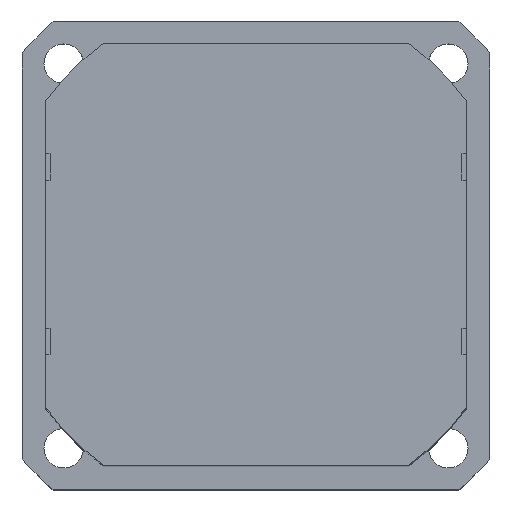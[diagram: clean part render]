
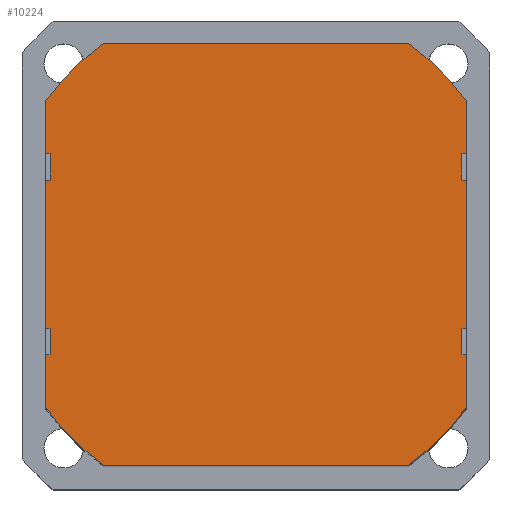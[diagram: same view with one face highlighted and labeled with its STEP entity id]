
A CAD part, top view. The second image highlights one B-rep face of the part: STEP entity #10224.
In plain terms, the highlighted planar face has unit normal (0, 0, 1).
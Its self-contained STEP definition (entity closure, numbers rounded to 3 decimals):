
#2602=CIRCLE('',#11012,79.);
#2603=CIRCLE('',#11013,79.);
#2604=CIRCLE('',#11014,79.);
#2605=CIRCLE('',#11015,79.);
#3288=VERTEX_POINT('',#14359);
#3289=VERTEX_POINT('',#14360);
#3290=VERTEX_POINT('',#14362);
#3291=VERTEX_POINT('',#14364);
#3292=VERTEX_POINT('',#14366);
#3293=VERTEX_POINT('',#14368);
#3294=VERTEX_POINT('',#14370);
#3295=VERTEX_POINT('',#14372);
#3296=VERTEX_POINT('',#14374);
#3297=VERTEX_POINT('',#14376);
#3298=VERTEX_POINT('',#14378);
#3299=VERTEX_POINT('',#14380);
#3300=VERTEX_POINT('',#14382);
#3301=VERTEX_POINT('',#14384);
#3302=VERTEX_POINT('',#14386);
#3303=VERTEX_POINT('',#14388);
#3304=VERTEX_POINT('',#14390);
#3305=VERTEX_POINT('',#14392);
#3306=VERTEX_POINT('',#14394);
#3307=VERTEX_POINT('',#14396);
#3308=VERTEX_POINT('',#14398);
#3309=VERTEX_POINT('',#14400);
#3310=VERTEX_POINT('',#14402);
#3311=VERTEX_POINT('',#14404);
#4258=LINE('',#14358,#12078);
#4259=LINE('',#14363,#12079);
#4260=LINE('',#14365,#12080);
#4261=LINE('',#14367,#12081);
#4262=LINE('',#14369,#12082);
#4263=LINE('',#14371,#12083);
#4264=LINE('',#14373,#12084);
#4265=LINE('',#14375,#12085);
#4266=LINE('',#14377,#12086);
#4267=LINE('',#14379,#12087);
#4268=LINE('',#14383,#12088);
#4269=LINE('',#14387,#12089);
#4270=LINE('',#14389,#12090);
#4271=LINE('',#14391,#12091);
#4272=LINE('',#14393,#12092);
#4273=LINE('',#14395,#12093);
#4274=LINE('',#14397,#12094);
#4275=LINE('',#14399,#12095);
#4276=LINE('',#14401,#12096);
#4277=LINE('',#14403,#12097);
#5134=EDGE_CURVE('',#3288,#3289,#4258,.T.);
#5135=EDGE_CURVE('',#3290,#3288,#2602,.T.);
#5136=EDGE_CURVE('',#3291,#3290,#4259,.T.);
#5137=EDGE_CURVE('',#3292,#3291,#4260,.T.);
#5138=EDGE_CURVE('',#3293,#3292,#4261,.T.);
#5139=EDGE_CURVE('',#3294,#3293,#4262,.T.);
#5140=EDGE_CURVE('',#3295,#3294,#4263,.T.);
#5141=EDGE_CURVE('',#3296,#3295,#4264,.T.);
#5142=EDGE_CURVE('',#3297,#3296,#4265,.T.);
#5143=EDGE_CURVE('',#3298,#3297,#4266,.T.);
#5144=EDGE_CURVE('',#3299,#3298,#4267,.T.);
#5145=EDGE_CURVE('',#3300,#3299,#2603,.T.);
#5146=EDGE_CURVE('',#3301,#3300,#4268,.T.);
#5147=EDGE_CURVE('',#3302,#3301,#2604,.T.);
#5148=EDGE_CURVE('',#3303,#3302,#4269,.T.);
#5149=EDGE_CURVE('',#3304,#3303,#4270,.T.);
#5150=EDGE_CURVE('',#3305,#3304,#4271,.T.);
#5151=EDGE_CURVE('',#3306,#3305,#4272,.T.);
#5152=EDGE_CURVE('',#3307,#3306,#4273,.T.);
#5153=EDGE_CURVE('',#3308,#3307,#4274,.T.);
#5154=EDGE_CURVE('',#3309,#3308,#4275,.T.);
#5155=EDGE_CURVE('',#3310,#3309,#4276,.T.);
#5156=EDGE_CURVE('',#3311,#3310,#4277,.T.);
#5157=EDGE_CURVE('',#3289,#3311,#2605,.T.);
#6662=ORIENTED_EDGE('',*,*,#5134,.F.);
#6663=ORIENTED_EDGE('',*,*,#5135,.F.);
#6664=ORIENTED_EDGE('',*,*,#5136,.F.);
#6665=ORIENTED_EDGE('',*,*,#5137,.F.);
#6666=ORIENTED_EDGE('',*,*,#5138,.F.);
#6667=ORIENTED_EDGE('',*,*,#5139,.F.);
#6668=ORIENTED_EDGE('',*,*,#5140,.F.);
#6669=ORIENTED_EDGE('',*,*,#5141,.F.);
#6670=ORIENTED_EDGE('',*,*,#5142,.F.);
#6671=ORIENTED_EDGE('',*,*,#5143,.F.);
#6672=ORIENTED_EDGE('',*,*,#5144,.F.);
#6673=ORIENTED_EDGE('',*,*,#5145,.F.);
#6674=ORIENTED_EDGE('',*,*,#5146,.F.);
#6675=ORIENTED_EDGE('',*,*,#5147,.F.);
#6676=ORIENTED_EDGE('',*,*,#5148,.F.);
#6677=ORIENTED_EDGE('',*,*,#5149,.F.);
#6678=ORIENTED_EDGE('',*,*,#5150,.F.);
#6679=ORIENTED_EDGE('',*,*,#5151,.F.);
#6680=ORIENTED_EDGE('',*,*,#5152,.F.);
#6681=ORIENTED_EDGE('',*,*,#5153,.F.);
#6682=ORIENTED_EDGE('',*,*,#5154,.F.);
#6683=ORIENTED_EDGE('',*,*,#5155,.F.);
#6684=ORIENTED_EDGE('',*,*,#5156,.F.);
#6685=ORIENTED_EDGE('',*,*,#5157,.F.);
#8901=EDGE_LOOP('',(#6662,#6663,#6664,#6665,#6666,#6667,#6668,#6669,#6670,
#6671,#6672,#6673,#6674,#6675,#6676,#6677,#6678,#6679,#6680,#6681,#6682,
#6683,#6684,#6685));
#9577=FACE_BOUND('',#8901,.T.);
#10224=ADVANCED_FACE('',(#9577),#12791,.T.);
#11011=AXIS2_PLACEMENT_3D('',#14357,#18520,$);
#11012=AXIS2_PLACEMENT_3D('',#14361,#18522,#18523);
#11013=AXIS2_PLACEMENT_3D('',#14381,#18533,#18534);
#11014=AXIS2_PLACEMENT_3D('',#14385,#18536,#18537);
#11015=AXIS2_PLACEMENT_3D('',#14405,#18547,#18548);
#12078=VECTOR('',#18521,1.);
#12079=VECTOR('',#18524,1.);
#12080=VECTOR('',#18525,1.);
#12081=VECTOR('',#18526,1.);
#12082=VECTOR('',#18527,1.);
#12083=VECTOR('',#18528,1.);
#12084=VECTOR('',#18529,1.);
#12085=VECTOR('',#18530,1.);
#12086=VECTOR('',#18531,1.);
#12087=VECTOR('',#18532,1.);
#12088=VECTOR('',#18535,1.);
#12089=VECTOR('',#18538,1.);
#12090=VECTOR('',#18539,1.);
#12091=VECTOR('',#18540,1.);
#12092=VECTOR('',#18541,1.);
#12093=VECTOR('',#18542,1.);
#12094=VECTOR('',#18543,1.);
#12095=VECTOR('',#18544,1.);
#12096=VECTOR('',#18545,1.);
#12097=VECTOR('',#18546,1.);
#12791=PLANE('',#11011);
#14357=CARTESIAN_POINT('',(0.,0.,
123.));
#14358=CARTESIAN_POINT('',(-46.314,-64.,123.));
#14359=CARTESIAN_POINT('',(46.314,-64.,123.));
#14360=CARTESIAN_POINT('',(-46.314,-64.,123.));
#14361=CARTESIAN_POINT('',(0.,0.,123.));
#14362=CARTESIAN_POINT('',(64.,-46.314,123.));
#14363=CARTESIAN_POINT('',(64.,-46.314,123.));
#14364=CARTESIAN_POINT('',(64.,-30.5,123.));
#14365=CARTESIAN_POINT('',(64.,-30.5,123.));
#14366=CARTESIAN_POINT('',(62.5,-30.5,123.));
#14367=CARTESIAN_POINT('',(62.5,-30.5,123.));
#14368=CARTESIAN_POINT('',(62.5,-22.5,123.));
#14369=CARTESIAN_POINT('',(62.5,-22.5,123.));
#14370=CARTESIAN_POINT('',(64.,-22.5,123.));
#14371=CARTESIAN_POINT('',(64.,-22.5,123.));
#14372=CARTESIAN_POINT('',(64.,22.5,123.));
#14373=CARTESIAN_POINT('',(64.,22.5,123.));
#14374=CARTESIAN_POINT('',(62.5,22.5,123.));
#14375=CARTESIAN_POINT('',(62.5,22.5,123.));
#14376=CARTESIAN_POINT('',(62.5,30.5,123.));
#14377=CARTESIAN_POINT('',(62.5,30.5,123.));
#14378=CARTESIAN_POINT('',(64.,30.5,123.));
#14379=CARTESIAN_POINT('',(64.,30.5,123.));
#14380=CARTESIAN_POINT('',(64.,46.314,123.));
#14381=CARTESIAN_POINT('',(0.,0.,123.));
#14382=CARTESIAN_POINT('',(46.314,64.,123.));
#14383=CARTESIAN_POINT('',(46.314,64.,123.));
#14384=CARTESIAN_POINT('',(-46.314,64.,123.));
#14385=CARTESIAN_POINT('',(0.,0.,123.));
#14386=CARTESIAN_POINT('',(-64.,46.314,123.));
#14387=CARTESIAN_POINT('',(-64.,46.314,123.));
#14388=CARTESIAN_POINT('',(-64.,30.5,123.));
#14389=CARTESIAN_POINT('',(-64.,30.5,123.));
#14390=CARTESIAN_POINT('',(-62.5,30.5,123.));
#14391=CARTESIAN_POINT('',(-62.5,30.5,123.));
#14392=CARTESIAN_POINT('',(-62.5,22.5,123.));
#14393=CARTESIAN_POINT('',(-62.5,22.5,123.));
#14394=CARTESIAN_POINT('',(-64.,22.5,123.));
#14395=CARTESIAN_POINT('',(-64.,22.5,123.));
#14396=CARTESIAN_POINT('',(-64.,-22.5,123.));
#14397=CARTESIAN_POINT('',(-64.,-22.5,123.));
#14398=CARTESIAN_POINT('',(-62.5,-22.5,123.));
#14399=CARTESIAN_POINT('',(-62.5,-22.5,123.));
#14400=CARTESIAN_POINT('',(-62.5,-30.5,123.));
#14401=CARTESIAN_POINT('',(-62.5,-30.5,123.));
#14402=CARTESIAN_POINT('',(-64.,-30.5,123.));
#14403=CARTESIAN_POINT('',(-64.,-30.5,123.));
#14404=CARTESIAN_POINT('',(-64.,-46.314,123.));
#14405=CARTESIAN_POINT('',(0.,0.,123.));
#18520=DIRECTION('',(0.,0.,1.));
#18521=DIRECTION('',(-1.,0.,0.));
#18522=DIRECTION('',(0.,0.,-1.));
#18523=DIRECTION('',(79.,0.,0.));
#18524=DIRECTION('',(0.,-1.,0.));
#18525=DIRECTION('',(1.,0.,0.));
#18526=DIRECTION('',(0.,-1.,0.));
#18527=DIRECTION('',(-1.,0.,0.));
#18528=DIRECTION('',(0.,-1.,0.));
#18529=DIRECTION('',(1.,0.,0.));
#18530=DIRECTION('',(0.,-1.,0.));
#18531=DIRECTION('',(-1.,0.,0.));
#18532=DIRECTION('',(0.,-1.,0.));
#18533=DIRECTION('',(0.,0.,-1.));
#18534=DIRECTION('',(79.,0.,0.));
#18535=DIRECTION('',(1.,0.,0.));
#18536=DIRECTION('',(0.,0.,-1.));
#18537=DIRECTION('',(79.,0.,0.));
#18538=DIRECTION('',(0.,1.,0.));
#18539=DIRECTION('',(-1.,0.,0.));
#18540=DIRECTION('',(0.,1.,0.));
#18541=DIRECTION('',(1.,0.,0.));
#18542=DIRECTION('',(0.,1.,0.));
#18543=DIRECTION('',(-1.,0.,0.));
#18544=DIRECTION('',(0.,1.,0.));
#18545=DIRECTION('',(1.,0.,0.));
#18546=DIRECTION('',(0.,1.,0.));
#18547=DIRECTION('',(0.,0.,-1.));
#18548=DIRECTION('',(79.,0.,0.));
